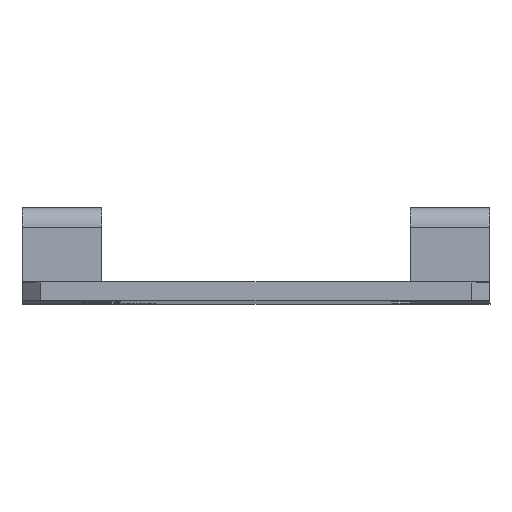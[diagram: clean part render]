
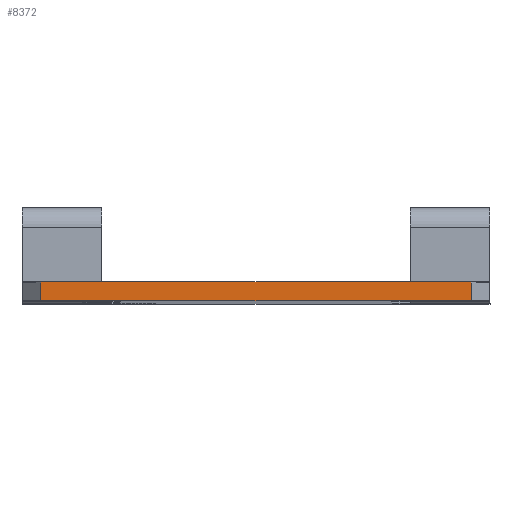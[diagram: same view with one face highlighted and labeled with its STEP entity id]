
A CAD part, top view. The second image highlights one B-rep face of the part: STEP entity #8372.
In plain terms, the highlighted planar face has unit normal (0, 0, 1).
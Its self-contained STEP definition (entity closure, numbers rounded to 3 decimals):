
#258 = VECTOR ( 'NONE', #1870, 1000. ) ;
#644 = ORIENTED_EDGE ( 'NONE', *, *, #5649, .F. ) ;
#653 = EDGE_CURVE ( 'NONE', #8425, #6833, #6142, .T. ) ;
#1262 = EDGE_CURVE ( 'NONE', #4811, #2767, #5210, .T. ) ;
#1384 = ORIENTED_EDGE ( 'NONE', *, *, #1262, .T. ) ;
#1733 = FACE_OUTER_BOUND ( 'NONE', #8348, .T. ) ;
#1870 = DIRECTION ( 'NONE',  ( 1., 0., 0. ) ) ;
#1877 = CARTESIAN_POINT ( 'NONE',  ( -43., 2., 5. ) ) ;
#1961 = CARTESIAN_POINT ( 'NONE',  ( -43., 2., 5. ) ) ;
#2542 = VECTOR ( 'NONE', #7207, 1000. ) ;
#2743 = DIRECTION ( 'NONE',  ( 0., -1., 0. ) ) ;
#2767 = VERTEX_POINT ( 'NONE', #2958 ) ;
#2958 = CARTESIAN_POINT ( 'NONE',  ( 3., 2., 5. ) ) ;
#3246 = DIRECTION ( 'NONE',  ( 0., 1., 0. ) ) ;
#3559 = CARTESIAN_POINT ( 'NONE',  ( -43., 0., 5. ) ) ;
#3819 = CARTESIAN_POINT ( 'NONE',  ( 3., 2., 5. ) ) ;
#4178 = ORIENTED_EDGE ( 'NONE', *, *, #653, .T. ) ;
#4496 = ORIENTED_EDGE ( 'NONE', *, *, #7727, .T. ) ;
#4590 = LINE ( 'NONE', #7352, #258 ) ;
#4811 = VERTEX_POINT ( 'NONE', #7596 ) ;
#5030 = LINE ( 'NONE', #8610, #2542 ) ;
#5210 = LINE ( 'NONE', #3819, #7291 ) ;
#5242 = DIRECTION ( 'NONE',  ( 0., 0., 1. ) ) ;
#5649 = EDGE_CURVE ( 'NONE', #8425, #2767, #4590, .T. ) ;
#6142 = LINE ( 'NONE', #1961, #6677 ) ;
#6589 = PLANE ( 'NONE',  #7759 ) ;
#6673 = CARTESIAN_POINT ( 'NONE',  ( -45., 2., 5. ) ) ;
#6677 = VECTOR ( 'NONE', #2743, 1000. ) ;
#6833 = VERTEX_POINT ( 'NONE', #3559 ) ;
#7207 = DIRECTION ( 'NONE',  ( 1., 0., 0. ) ) ;
#7291 = VECTOR ( 'NONE', #3246, 1000. ) ;
#7318 = DIRECTION ( 'NONE',  ( 1., 0., 0. ) ) ;
#7352 = CARTESIAN_POINT ( 'NONE',  ( -45., 2., 5. ) ) ;
#7596 = CARTESIAN_POINT ( 'NONE',  ( 3., 0., 5. ) ) ;
#7727 = EDGE_CURVE ( 'NONE', #6833, #4811, #5030, .T. ) ;
#7759 = AXIS2_PLACEMENT_3D ( 'NONE', #6673, #5242, #7318 ) ;
#8348 = EDGE_LOOP ( 'NONE', ( #644, #4178, #4496, #1384 ) ) ;
#8372 = ADVANCED_FACE ( 'NONE', ( #1733 ), #6589, .T. ) ;
#8425 = VERTEX_POINT ( 'NONE', #1877 ) ;
#8610 = CARTESIAN_POINT ( 'NONE',  ( -20., 0., 5. ) ) ;
